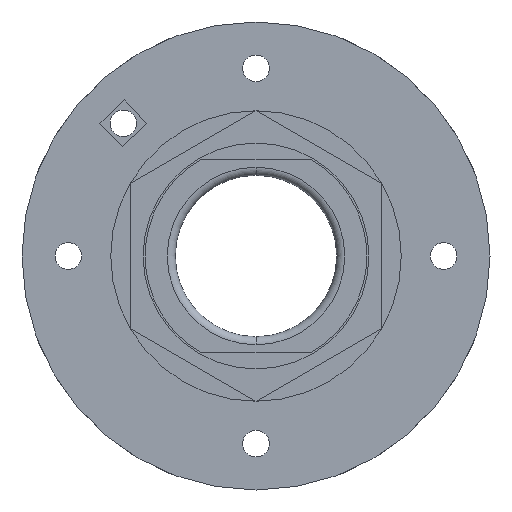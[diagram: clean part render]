
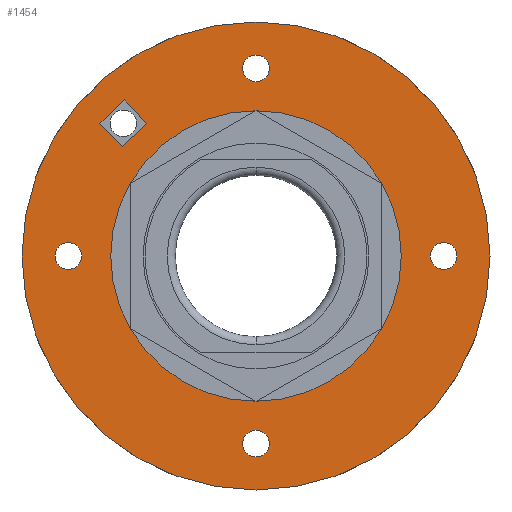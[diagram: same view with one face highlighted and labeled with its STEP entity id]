
A CAD part, front view. The second image highlights one B-rep face of the part: STEP entity #1454.
In plain terms, the highlighted planar face has unit normal (0, -1, 0).
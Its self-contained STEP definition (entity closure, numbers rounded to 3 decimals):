
#22 = EDGE_CURVE ( 'NONE', #1713, #2733, #1809, .T. ) ;
#51 = FACE_BOUND ( 'NONE', #1950, .T. ) ;
#59 = VERTEX_POINT ( 'NONE', #1774 ) ;
#62 = AXIS2_PLACEMENT_3D ( 'NONE', #2785, #853, #296 ) ;
#70 = PLANE ( 'NONE',  #958 ) ;
#87 = DIRECTION ( 'NONE',  ( 0., 0., -1. ) ) ;
#93 = DIRECTION ( 'NONE',  ( 0., 0., -1. ) ) ;
#127 = FACE_BOUND ( 'NONE', #430, .T. ) ;
#160 = CARTESIAN_POINT ( 'NONE',  ( -16.582, -9., 13.544 ) ) ;
#189 = CIRCLE ( 'NONE', #1910, 29. ) ;
#197 = ORIENTED_EDGE ( 'NONE', *, *, #652, .F. ) ;
#200 = DIRECTION ( 'NONE',  ( 0., 0., -1. ) ) ;
#202 = ORIENTED_EDGE ( 'NONE', *, *, #515, .F. ) ;
#210 = DIRECTION ( 'NONE',  ( 0., -1., 0. ) ) ;
#255 = CARTESIAN_POINT ( 'NONE',  ( 23.25, -9., 0. ) ) ;
#265 = AXIS2_PLACEMENT_3D ( 'NONE', #710, #210, #1563 ) ;
#269 = DIRECTION ( 'NONE',  ( 0., 0., -1. ) ) ;
#296 = DIRECTION ( 'NONE',  ( 0., 0., -1. ) ) ;
#304 = DIRECTION ( 'NONE',  ( -0.724, 0., -0.69 ) ) ;
#339 = EDGE_LOOP ( 'NONE', ( #539, #612, #2337, #1772 ) ) ;
#347 = EDGE_CURVE ( 'NONE', #410, #3402, #688, .T. ) ;
#364 = EDGE_CURVE ( 'NONE', #3402, #410, #1271, .T. ) ;
#372 = DIRECTION ( 'NONE',  ( 0., -1., 0. ) ) ;
#380 = ORIENTED_EDGE ( 'NONE', *, *, #3488, .F. ) ;
#410 = VERTEX_POINT ( 'NONE', #1217 ) ;
#418 = VERTEX_POINT ( 'NONE', #3144 ) ;
#422 = CARTESIAN_POINT ( 'NONE',  ( 1.11, -9., 1.057 ) ) ;
#430 = EDGE_LOOP ( 'NONE', ( #1560, #1152 ) ) ;
#439 = VERTEX_POINT ( 'NONE', #984 ) ;
#465 = DIRECTION ( 'NONE',  ( 0., -1., 0. ) ) ;
#481 = CARTESIAN_POINT ( 'NONE',  ( 23.25, -9., 0. ) ) ;
#502 = CIRCLE ( 'NONE', #2753, 1.65 ) ;
#515 = EDGE_CURVE ( 'NONE', #2912, #59, #2661, .T. ) ;
#539 = ORIENTED_EDGE ( 'NONE', *, *, #1728, .F. ) ;
#579 = DIRECTION ( 'NONE',  ( 0., 0., -1. ) ) ;
#582 = VERTEX_POINT ( 'NONE', #645 ) ;
#585 = FACE_BOUND ( 'NONE', #2624, .T. ) ;
#612 = ORIENTED_EDGE ( 'NONE', *, *, #2591, .F. ) ;
#621 = ORIENTED_EDGE ( 'NONE', *, *, #1069, .T. ) ;
#645 = CARTESIAN_POINT ( 'NONE',  ( 0., -9., 21.6 ) ) ;
#646 = VERTEX_POINT ( 'NONE', #954 ) ;
#652 = EDGE_CURVE ( 'NONE', #582, #2357, #1562, .T. ) ;
#656 = CARTESIAN_POINT ( 'NONE',  ( -16.299, -9., 19.337 ) ) ;
#681 = DIRECTION ( 'NONE',  ( 0., 0., -1. ) ) ;
#688 = CIRCLE ( 'NONE', #62, 1.65 ) ;
#707 = EDGE_LOOP ( 'NONE', ( #380, #202 ) ) ;
#710 = CARTESIAN_POINT ( 'NONE',  ( -23.25, -9., 0. ) ) ;
#767 = CARTESIAN_POINT ( 'NONE',  ( -23.25, -9., 1.65 ) ) ;
#809 = DIRECTION ( 'NONE',  ( 0., -1., 0. ) ) ;
#824 = VERTEX_POINT ( 'NONE', #3442 ) ;
#853 = DIRECTION ( 'NONE',  ( 0., -1., 0. ) ) ;
#892 = CARTESIAN_POINT ( 'NONE',  ( 0., -9., 0. ) ) ;
#903 = CARTESIAN_POINT ( 'NONE',  ( 0., -9., -24.9 ) ) ;
#905 = EDGE_LOOP ( 'NONE', ( #1881, #197 ) ) ;
#910 = CIRCLE ( 'NONE', #1833, 18. ) ;
#954 = CARTESIAN_POINT ( 'NONE',  ( 0., -9., 29. ) ) ;
#958 = AXIS2_PLACEMENT_3D ( 'NONE', #892, #3055, #87 ) ;
#984 = CARTESIAN_POINT ( 'NONE',  ( -19.34, -9., 16.44 ) ) ;
#996 = DIRECTION ( 'NONE',  ( 0., -1., 0. ) ) ;
#1039 = ORIENTED_EDGE ( 'NONE', *, *, #1597, .F. ) ;
#1051 = CARTESIAN_POINT ( 'NONE',  ( 23.25, -9., -1.65 ) ) ;
#1053 = EDGE_CURVE ( 'NONE', #2357, #582, #2545, .T. ) ;
#1069 = EDGE_CURVE ( 'NONE', #824, #646, #189, .T. ) ;
#1085 = AXIS2_PLACEMENT_3D ( 'NONE', #1214, #1424, #2563 ) ;
#1147 = ORIENTED_EDGE ( 'NONE', *, *, #3336, .F. ) ;
#1152 = ORIENTED_EDGE ( 'NONE', *, *, #364, .F. ) ;
#1153 = AXIS2_PLACEMENT_3D ( 'NONE', #1816, #996, #681 ) ;
#1163 = FACE_OUTER_BOUND ( 'NONE', #3418, .T. ) ;
#1185 = CARTESIAN_POINT ( 'NONE',  ( 0., -9., 0. ) ) ;
#1214 = CARTESIAN_POINT ( 'NONE',  ( -23.25, -9., 0. ) ) ;
#1217 = CARTESIAN_POINT ( 'NONE',  ( 0., -9., -21.6 ) ) ;
#1271 = CIRCLE ( 'NONE', #2077, 1.65 ) ;
#1273 = DIRECTION ( 'NONE',  ( -0.69, 0., 0.724 ) ) ;
#1274 = AXIS2_PLACEMENT_3D ( 'NONE', #1761, #2561, #93 ) ;
#1358 = CIRCLE ( 'NONE', #1757, 29. ) ;
#1394 = DIRECTION ( 'NONE',  ( 0., -1., 0. ) ) ;
#1424 = DIRECTION ( 'NONE',  ( 0., -1., 0. ) ) ;
#1454 = ADVANCED_FACE ( 'NONE', ( #2556, #2029, #2808, #585, #127, #51, #1163 ), #70, .T. ) ;
#1473 = EDGE_CURVE ( 'NONE', #2757, #1713, #2323, .T. ) ;
#1495 = EDGE_CURVE ( 'NONE', #646, #824, #1358, .T. ) ;
#1538 = CIRCLE ( 'NONE', #2348, 1.65 ) ;
#1560 = ORIENTED_EDGE ( 'NONE', *, *, #347, .F. ) ;
#1562 = CIRCLE ( 'NONE', #1153, 1.65 ) ;
#1563 = DIRECTION ( 'NONE',  ( 0., 0., -1. ) ) ;
#1597 = EDGE_CURVE ( 'NONE', #2830, #1754, #2916, .T. ) ;
#1684 = DIRECTION ( 'NONE',  ( 0., 0., -1. ) ) ;
#1713 = VERTEX_POINT ( 'NONE', #3272 ) ;
#1720 = VECTOR ( 'NONE', #1273, 1000. ) ;
#1728 = EDGE_CURVE ( 'NONE', #439, #2757, #2433, .T. ) ;
#1736 = AXIS2_PLACEMENT_3D ( 'NONE', #2186, #809, #1912 ) ;
#1750 = CARTESIAN_POINT ( 'NONE',  ( -23.25, -9., -1.65 ) ) ;
#1754 = VERTEX_POINT ( 'NONE', #767 ) ;
#1757 = AXIS2_PLACEMENT_3D ( 'NONE', #3113, #372, #1684 ) ;
#1761 = CARTESIAN_POINT ( 'NONE',  ( 0., -9., 0. ) ) ;
#1772 = ORIENTED_EDGE ( 'NONE', *, *, #1473, .F. ) ;
#1774 = CARTESIAN_POINT ( 'NONE',  ( 0., -9., 18. ) ) ;
#1809 = LINE ( 'NONE', #422, #1720 ) ;
#1816 = CARTESIAN_POINT ( 'NONE',  ( 0., -9., 23.25 ) ) ;
#1833 = AXIS2_PLACEMENT_3D ( 'NONE', #3477, #3177, #3231 ) ;
#1881 = ORIENTED_EDGE ( 'NONE', *, *, #1053, .F. ) ;
#1910 = AXIS2_PLACEMENT_3D ( 'NONE', #1185, #1996, #3096 ) ;
#1912 = DIRECTION ( 'NONE',  ( 0., 0., -1. ) ) ;
#1950 = EDGE_LOOP ( 'NONE', ( #3124, #2054 ) ) ;
#1996 = DIRECTION ( 'NONE',  ( 0., -1., 0. ) ) ;
#2006 = CARTESIAN_POINT ( 'NONE',  ( 0., -9., -23.25 ) ) ;
#2029 = FACE_BOUND ( 'NONE', #707, .T. ) ;
#2054 = ORIENTED_EDGE ( 'NONE', *, *, #2439, .F. ) ;
#2077 = AXIS2_PLACEMENT_3D ( 'NONE', #2006, #1394, #579 ) ;
#2124 = CIRCLE ( 'NONE', #1085, 1.65 ) ;
#2186 = CARTESIAN_POINT ( 'NONE',  ( 0., -9., 23.25 ) ) ;
#2199 = EDGE_CURVE ( 'NONE', #418, #3482, #1538, .T. ) ;
#2323 = LINE ( 'NONE', #2573, #2969 ) ;
#2337 = ORIENTED_EDGE ( 'NONE', *, *, #22, .F. ) ;
#2348 = AXIS2_PLACEMENT_3D ( 'NONE', #255, #2794, #269 ) ;
#2357 = VERTEX_POINT ( 'NONE', #3137 ) ;
#2400 = ORIENTED_EDGE ( 'NONE', *, *, #1495, .T. ) ;
#2408 = VECTOR ( 'NONE', #304, 1000. ) ;
#2433 = LINE ( 'NONE', #3301, #3081 ) ;
#2439 = EDGE_CURVE ( 'NONE', #3482, #418, #502, .T. ) ;
#2545 = CIRCLE ( 'NONE', #1736, 1.65 ) ;
#2556 = FACE_BOUND ( 'NONE', #339, .T. ) ;
#2561 = DIRECTION ( 'NONE',  ( 0., -1., 0. ) ) ;
#2563 = DIRECTION ( 'NONE',  ( 0., 0., -1. ) ) ;
#2573 = CARTESIAN_POINT ( 'NONE',  ( -14.65, -9., 15.383 ) ) ;
#2591 = EDGE_CURVE ( 'NONE', #2733, #439, #2759, .T. ) ;
#2624 = EDGE_LOOP ( 'NONE', ( #1147, #1039 ) ) ;
#2661 = CIRCLE ( 'NONE', #1274, 18. ) ;
#2733 = VERTEX_POINT ( 'NONE', #656 ) ;
#2753 = AXIS2_PLACEMENT_3D ( 'NONE', #481, #465, #200 ) ;
#2757 = VERTEX_POINT ( 'NONE', #160 ) ;
#2759 = LINE ( 'NONE', #3261, #2408 ) ;
#2785 = CARTESIAN_POINT ( 'NONE',  ( 0., -9., -23.25 ) ) ;
#2794 = DIRECTION ( 'NONE',  ( 0., -1., 0. ) ) ;
#2808 = FACE_BOUND ( 'NONE', #905, .T. ) ;
#2830 = VERTEX_POINT ( 'NONE', #1750 ) ;
#2864 = DIRECTION ( 'NONE',  ( 0.724, 0., 0.69 ) ) ;
#2912 = VERTEX_POINT ( 'NONE', #3370 ) ;
#2916 = CIRCLE ( 'NONE', #265, 1.65 ) ;
#2969 = VECTOR ( 'NONE', #2864, 1000. ) ;
#3055 = DIRECTION ( 'NONE',  ( 0., -1., 0. ) ) ;
#3081 = VECTOR ( 'NONE', #3504, 1000. ) ;
#3096 = DIRECTION ( 'NONE',  ( 0., 0., -1. ) ) ;
#3113 = CARTESIAN_POINT ( 'NONE',  ( 0., -9., 0. ) ) ;
#3124 = ORIENTED_EDGE ( 'NONE', *, *, #2199, .F. ) ;
#3137 = CARTESIAN_POINT ( 'NONE',  ( 0., -9., 24.9 ) ) ;
#3144 = CARTESIAN_POINT ( 'NONE',  ( 23.25, -9., 1.65 ) ) ;
#3177 = DIRECTION ( 'NONE',  ( 0., -1., 0. ) ) ;
#3231 = DIRECTION ( 'NONE',  ( 0., 0., -1. ) ) ;
#3261 = CARTESIAN_POINT ( 'NONE',  ( -17.409, -9., 18.279 ) ) ;
#3272 = CARTESIAN_POINT ( 'NONE',  ( -13.54, -9., 16.44 ) ) ;
#3301 = CARTESIAN_POINT ( 'NONE',  ( -1.931, -9., -1.839 ) ) ;
#3336 = EDGE_CURVE ( 'NONE', #1754, #2830, #2124, .T. ) ;
#3370 = CARTESIAN_POINT ( 'NONE',  ( 0., -9., -18. ) ) ;
#3402 = VERTEX_POINT ( 'NONE', #903 ) ;
#3418 = EDGE_LOOP ( 'NONE', ( #2400, #621 ) ) ;
#3442 = CARTESIAN_POINT ( 'NONE',  ( 0., -9., -29. ) ) ;
#3477 = CARTESIAN_POINT ( 'NONE',  ( 0., -9., 0. ) ) ;
#3482 = VERTEX_POINT ( 'NONE', #1051 ) ;
#3488 = EDGE_CURVE ( 'NONE', #59, #2912, #910, .T. ) ;
#3504 = DIRECTION ( 'NONE',  ( 0.69, 0., -0.724 ) ) ;
